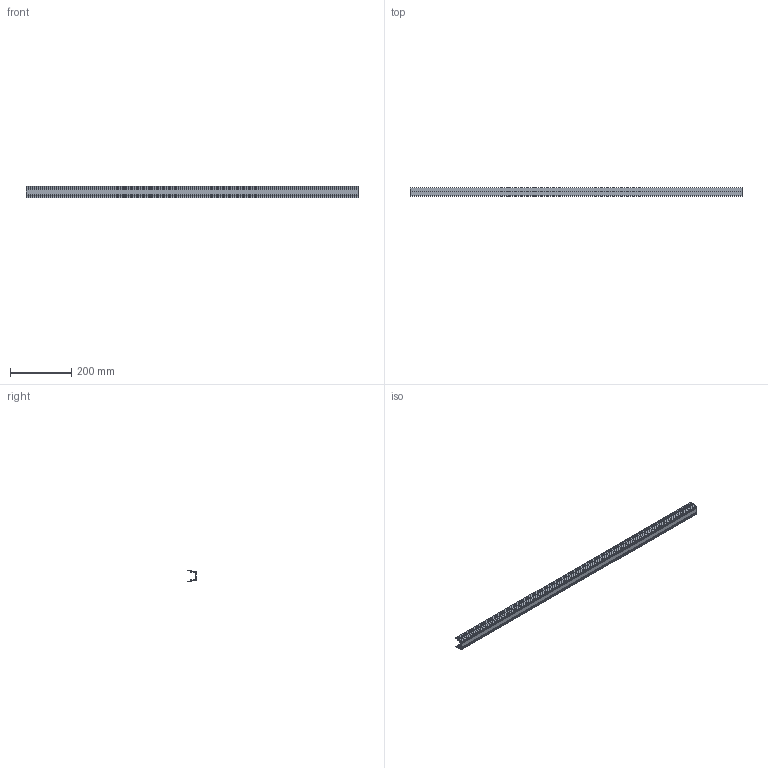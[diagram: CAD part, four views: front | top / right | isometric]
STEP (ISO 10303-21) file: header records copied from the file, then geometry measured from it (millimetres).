
FILE_DESCRIPTION( ( 'STEP AP203' ), '1' );
FILE_NAME( 'C:/Temp/Ganter_Step_05_03_2020/data/3_8/gn_646_3/Carrier profile GN 646.3-1080-A (15).stp', '2020-03-12T15:24:21', ( 'License CC BY-ND 4.0' ), ( 'CADENAS' ), ' ', 'PARTsolutions', ' ' );
FILE_SCHEMA( ( 'CONFIG_CONTROL_DESIGN' ) );
Length unit declared in the file: millimetre
Products named in the file (1): _Carrier profile GN 646.3-1080-A (15)
Bounding box: 1080 x 26.5 x 36 mm (x, y, z)
Volume: 181372.9 mm3; surface area: 227025.6 mm2
Topology: 1 solids, 1 shells, 112 faces, 330 edges, 220 vertices
Faces by surface type: plane 70, cylinder 42
Entity records: 3782 total; most frequent: CARTESIAN_POINT 663, ORIENTED_EDGE 660, DIRECTION 640, EDGE_CURVE 330, LINE 246, VECTOR 246, VERTEX_POINT 220, AXIS2_PLACEMENT_3D 197
